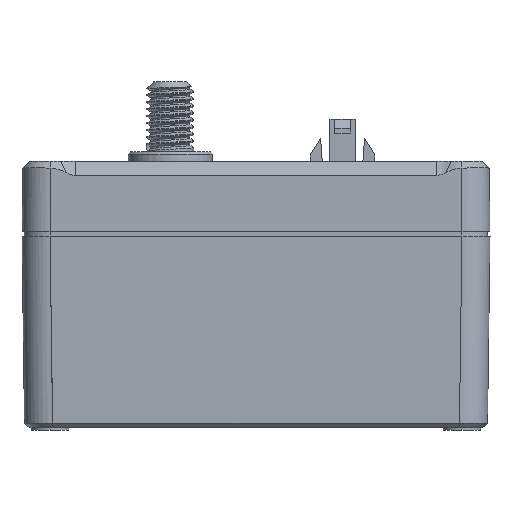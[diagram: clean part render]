
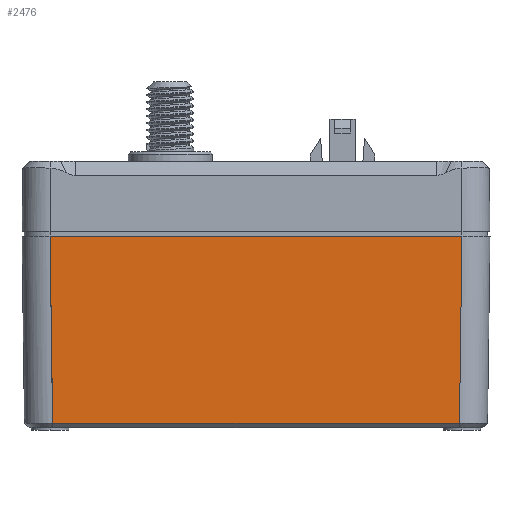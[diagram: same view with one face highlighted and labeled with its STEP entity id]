
A CAD part, left-side view. The second image highlights one B-rep face of the part: STEP entity #2476.
In plain terms, the highlighted planar face has unit normal (-1, 0, -0.013) as drawn and (1, 0, -0.013) by its records, which use the part's own axes.
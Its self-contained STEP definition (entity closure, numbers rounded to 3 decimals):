
#2091 = CARTESIAN_POINT ( 'NONE',  ( 39.463, 100., -30.496 ) ) ;
#2476 = ADVANCED_FACE ( 'NONE', ( #62322 ), #45334, .T. ) ;
#7135 = DIRECTION ( 'NONE',  ( -0.013, 0., -1. ) ) ;
#7596 = CARTESIAN_POINT ( 'NONE',  ( 39.651, 6.36, -16.175 ) ) ;
#7776 = EDGE_CURVE ( 'NONE', #52076, #12966, #54607, .T. ) ;
#9198 = CARTESIAN_POINT ( 'NONE',  ( 39.476, 93.477, -29.513 ) ) ;
#10379 = B_SPLINE_CURVE_WITH_KNOTS ( 'NONE', 3,
 ( #33212, #47682, #28546, #62205 ),
 .UNSPECIFIED., .F., .F.,
 ( 4, 4 ),
 ( 0., 1. ),
 .UNSPECIFIED. ) ;
#12966 = VERTEX_POINT ( 'NONE', #41643 ) ;
#13581 = VERTEX_POINT ( 'NONE', #9198 ) ;
#15246 = ORIENTED_EDGE ( 'NONE', *, *, #21854, .T. ) ;
#16224 = VECTOR ( 'NONE', #50352, 1000. ) ;
#18394 = VECTOR ( 'NONE', #51287, 1000. ) ;
#21405 = LINE ( 'NONE', #31961, #18394 ) ;
#21854 = EDGE_CURVE ( 'NONE', #12966, #59180, #31949, .T. ) ;
#22349 = AXIS2_PLACEMENT_3D ( 'NONE', #2091, #35909, #7135 ) ;
#24417 = CARTESIAN_POINT ( 'NONE',  ( 40., 94.001, 10.5 ) ) ;
#28546 = CARTESIAN_POINT ( 'NONE',  ( 39.651, 93.651, -16.175 ) ) ;
#30531 = ORIENTED_EDGE ( 'NONE', *, *, #58519, .F. ) ;
#31949 = B_SPLINE_CURVE_WITH_KNOTS ( 'NONE', 3,
 ( #45801, #50625, #7596, #41204 ),
 .UNSPECIFIED., .F., .F.,
 ( 4, 4 ),
 ( 0., 1. ),
 .UNSPECIFIED. ) ;
#31961 = CARTESIAN_POINT ( 'NONE',  ( 39.476, 6.542, -29.513 ) ) ;
#33212 = CARTESIAN_POINT ( 'NONE',  ( 40., 94.001, 10.5 ) ) ;
#34683 = ORIENTED_EDGE ( 'NONE', *, *, #7776, .T. ) ;
#35909 = DIRECTION ( 'NONE',  ( 1., 0., -0.013 ) ) ;
#41204 = CARTESIAN_POINT ( 'NONE',  ( 39.476, 6.541, -29.513 ) ) ;
#41643 = CARTESIAN_POINT ( 'NONE',  ( 40., 5.999, 10.5 ) ) ;
#43720 = CARTESIAN_POINT ( 'NONE',  ( 39.476, 6.541, -29.513 ) ) ;
#44232 = EDGE_LOOP ( 'NONE', ( #34683, #15246, #30531, #50607 ) ) ;
#45334 = PLANE ( 'NONE',  #22349 ) ;
#45518 = CARTESIAN_POINT ( 'NONE',  ( 40., 100., 10.5 ) ) ;
#45801 = CARTESIAN_POINT ( 'NONE',  ( 40., 5.999, 10.5 ) ) ;
#47682 = CARTESIAN_POINT ( 'NONE',  ( 39.825, 93.826, -2.838 ) ) ;
#50352 = DIRECTION ( 'NONE',  ( 0., -1., 0. ) ) ;
#50607 = ORIENTED_EDGE ( 'NONE', *, *, #56227, .F. ) ;
#50625 = CARTESIAN_POINT ( 'NONE',  ( 39.825, 6.18, -2.838 ) ) ;
#51287 = DIRECTION ( 'NONE',  ( 0., -1., 0. ) ) ;
#52076 = VERTEX_POINT ( 'NONE', #24417 ) ;
#54607 = LINE ( 'NONE', #45518, #16224 ) ;
#56227 = EDGE_CURVE ( 'NONE', #52076, #13581, #10379, .T. ) ;
#58519 = EDGE_CURVE ( 'NONE', #13581, #59180, #21405, .T. ) ;
#59180 = VERTEX_POINT ( 'NONE', #43720 ) ;
#62205 = CARTESIAN_POINT ( 'NONE',  ( 39.476, 93.477, -29.513 ) ) ;
#62322 = FACE_OUTER_BOUND ( 'NONE', #44232, .T. ) ;
